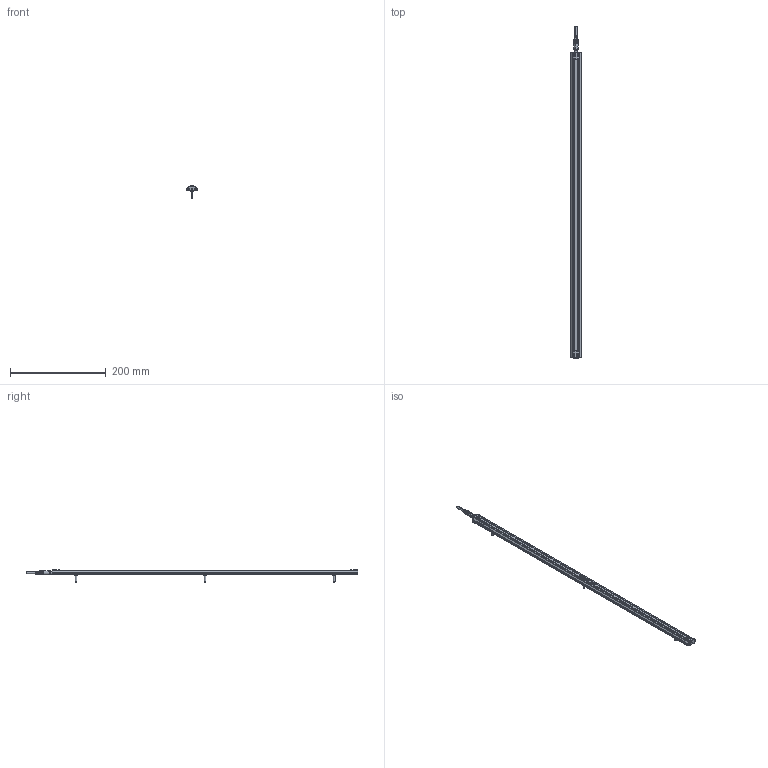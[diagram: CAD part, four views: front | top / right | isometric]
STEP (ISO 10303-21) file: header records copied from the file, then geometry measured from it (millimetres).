
FILE_DESCRIPTION (( 'STEP AP214' ), '1' );
FILE_NAME ('ILGA-B-K2-0640mm.STEP', '2026-04-24T22:55:08', ( '' ), ( '' ), 'SwSTEP 2.0', 'SolidWorks 2025', '' );
FILE_SCHEMA (( 'AUTOMOTIVE_DESIGN' ));
Length unit declared in the file: millimetre
Products named in the file (1): ILGA-B-K2-0640mm
Bounding box: 22.4 x 694.5 x 25.7 mm (x, y, z)
Surface area: 90433.3 mm2 (no closed solid volume)
Topology: 0 solids, 16 shells, 966 faces, 2516 edges, 1561 vertices
Faces by surface type: cylinder 399, plane 361, cone 84, bspline 56, torus 50, sphere 16
Entity records: 42561 total; most frequent: CARTESIAN_POINT 8657, ORIENTED_EDGE 4913, DIRECTION 4852, EDGE_CURVE 2464, AXIS2_PLACEMENT_3D 1860, VERTEX_POINT 1561, VECTOR 1132, LINE 1132
